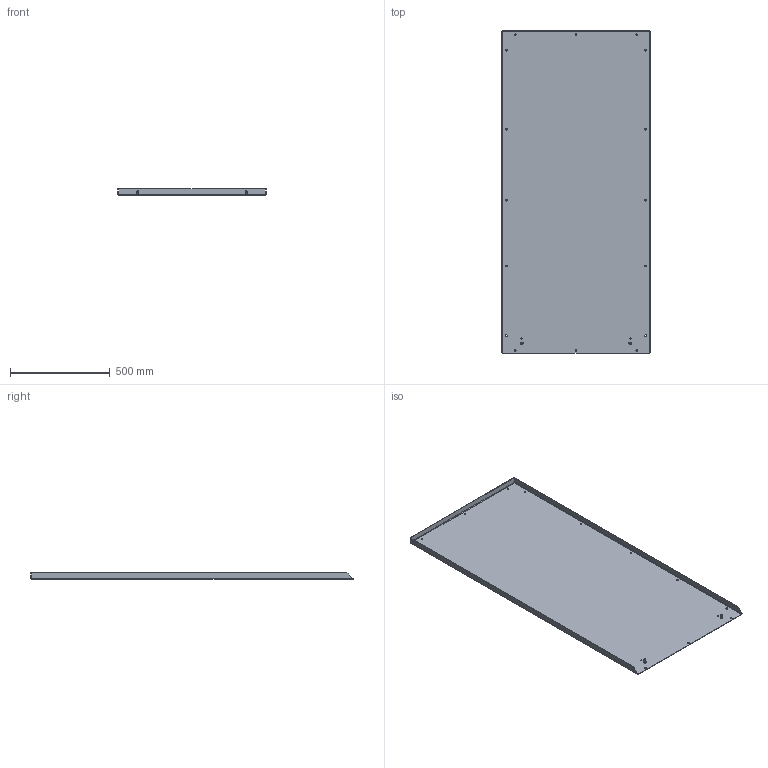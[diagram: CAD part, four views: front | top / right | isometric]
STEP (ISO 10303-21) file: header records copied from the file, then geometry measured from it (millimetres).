
FILE_DESCRIPTION (( 'STEP AP203' ), '1' );
FILE_NAME ('wfhd3rch7236.STEP', '2011-06-14T17:47:49', ( 'Hoffman User' ), ( 'Hoffman Enclosures' ), 'SwSTEP 2.0', 'SolidWorks 2010', '' );
FILE_SCHEMA (( 'CONFIG_CONTROL_DESIGN' ));
Length unit declared in the file: inch
Products named in the file (6): 89068146; wfhd3rch7236; 89067479; 87931368_SLEEVE; 87931527_87931527; 60100041_60100041
Assembly tree (6 placements, depth 4):
  wfhd3rch7236
    89068146
      60100041_60100041  x2
        87931368_SLEEVE
        87931527_87931527
      89067479
Bounding box: 742.29 x 1617.07 x 32.11 mm (x, y, z)
Volume: 3231608.1 mm3; surface area: 2637686.1 mm2
Topology: 5 solids, 5 shells, 222 faces, 528 edges, 326 vertices
Faces by surface type: plane 122, cylinder 78, cone 16, bspline 6
Entity records: 5769 total; most frequent: CARTESIAN_POINT 1310, DIRECTION 803, ORIENTED_EDGE 754, EDGE_CURVE 377, AXIS2_PLACEMENT_3D 283, VERTEX_POINT 238, LINE 237, VECTOR 237
